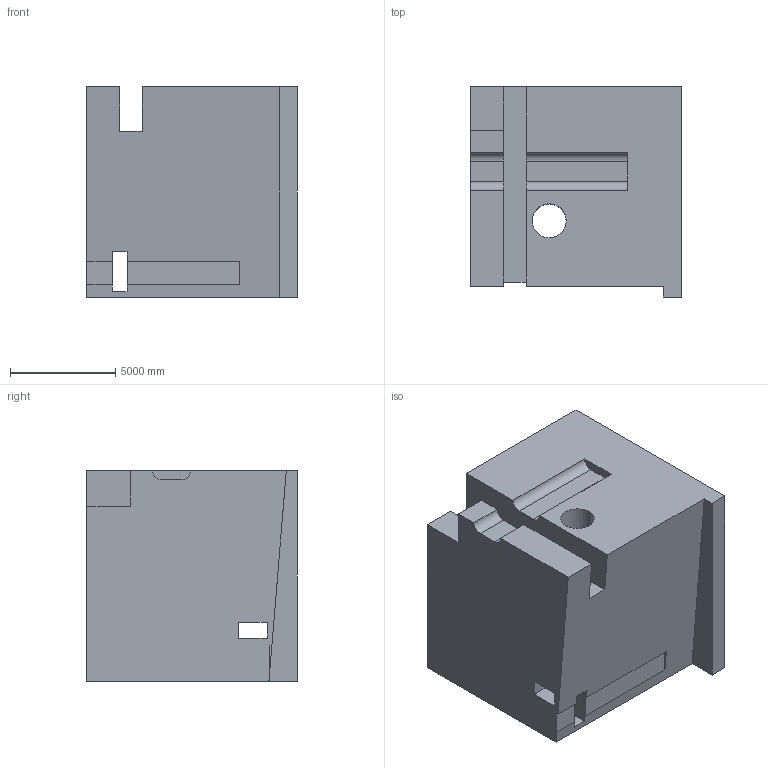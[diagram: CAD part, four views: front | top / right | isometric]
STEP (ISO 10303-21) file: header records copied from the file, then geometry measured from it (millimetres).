
FILE_DESCRIPTION (( 'STEP AP203' ), '1' );
FILE_NAME ('195.STEP', '2022-09-06T12:42:50', ( 'user' ), ( '' ), 'SwSTEP 2.0', 'SolidWorks 2021', '' );
FILE_SCHEMA (( 'CONFIG_CONTROL_DESIGN' ));
Length unit declared in the file: centimetre
Products named in the file (1): 195
Bounding box: 10000 x 10000 x 10000 mm (x, y, z)
Volume: 828077509918 mm3; surface area: 762464830.8 mm2
Topology: 1 solids, 1 shells, 50 faces, 159 edges, 106 vertices
Faces by surface type: plane 44, cylinder 6
Entity records: 1834 total; most frequent: ORIENTED_EDGE 318, CARTESIAN_POINT 316, DIRECTION 275, EDGE_CURVE 159, LINE 145, VECTOR 145, VERTEX_POINT 106, AXIS2_PLACEMENT_3D 65
